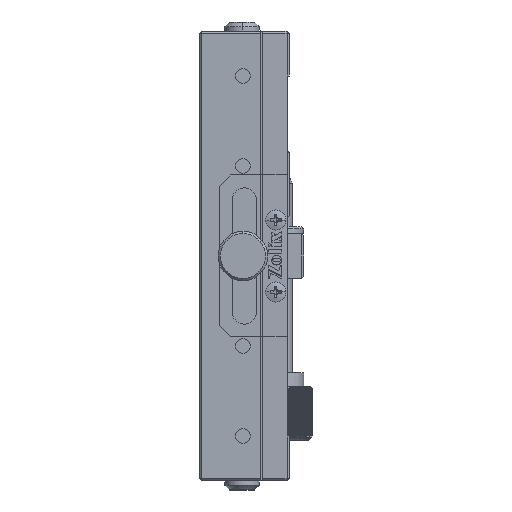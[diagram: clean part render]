
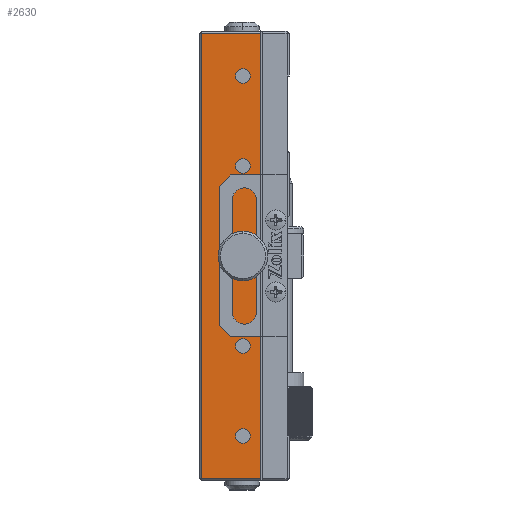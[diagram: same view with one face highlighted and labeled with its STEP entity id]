
A CAD part, left-side view. The second image highlights one B-rep face of the part: STEP entity #2630.
In plain terms, the highlighted planar face has unit normal (-1, 0, 0).
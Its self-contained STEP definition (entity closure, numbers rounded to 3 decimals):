
#374 = FACE_BOUND ( 'NONE', #23019, .T. ) ;
#692 = CARTESIAN_POINT ( 'NONE',  ( -52.563, -2.575, 132.5 ) ) ;
#922 = EDGE_LOOP ( 'NONE', ( #19258, #6708 ) ) ;
#1441 = VERTEX_POINT ( 'NONE', #41473 ) ;
#1697 = CARTESIAN_POINT ( 'NONE',  ( -52.563, -2.575, 92.5 ) ) ;
#1848 = ORIENTED_EDGE ( 'NONE', *, *, #37726, .F. ) ;
#2277 = DIRECTION ( 'NONE',  ( 0., 1., 0. ) ) ;
#2630 = ADVANCED_FACE ( 'NONE', ( #28847, #374, #29920, #15440, #40139, #11709 ), #17550, .T. ) ;
#2879 = EDGE_CURVE ( 'NONE', #11442, #38627, #13823, .T. ) ;
#3650 = EDGE_CURVE ( 'NONE', #9104, #14641, #29280, .T. ) ;
#3733 = LINE ( 'NONE', #16778, #30535 ) ;
#4685 = DIRECTION ( 'NONE',  ( 0., 0., 1. ) ) ;
#4721 = CARTESIAN_POINT ( 'NONE',  ( -52.563, -2.575, 90.85 ) ) ;
#4745 = CARTESIAN_POINT ( 'NONE',  ( -52.563, -6.575, 63. ) ) ;
#4981 = DIRECTION ( 'NONE',  ( -1., 0., 0. ) ) ;
#5251 = EDGE_CURVE ( 'NONE', #19416, #7612, #38796, .T. ) ;
#5461 = CARTESIAN_POINT ( 'NONE',  ( -52.563, -6.575, 162. ) ) ;
#5810 = CIRCLE ( 'NONE', #8080, 1.65 ) ;
#6166 = DIRECTION ( 'NONE',  ( 0., 0., 1. ) ) ;
#6420 = CARTESIAN_POINT ( 'NONE',  ( -52.563, -2.575, 70.85 ) ) ;
#6438 = AXIS2_PLACEMENT_3D ( 'NONE', #44531, #6765, #17104 ) ;
#6464 = DIRECTION ( 'NONE',  ( 0., 0., 1. ) ) ;
#6638 = EDGE_LOOP ( 'NONE', ( #26894, #42320, #8044, #34315 ) ) ;
#6708 = ORIENTED_EDGE ( 'NONE', *, *, #5251, .F. ) ;
#6765 = DIRECTION ( 'NONE',  ( -1., 0., 0. ) ) ;
#7329 = CIRCLE ( 'NONE', #19308, 1.65 ) ;
#7612 = VERTEX_POINT ( 'NONE', #21663 ) ;
#8044 = ORIENTED_EDGE ( 'NONE', *, *, #20884, .T. ) ;
#8053 = DIRECTION ( 'NONE',  ( -1., 0., 0. ) ) ;
#8059 = EDGE_CURVE ( 'NONE', #36309, #40314, #25794, .T. ) ;
#8080 = AXIS2_PLACEMENT_3D ( 'NONE', #42612, #18751, #8120 ) ;
#8120 = DIRECTION ( 'NONE',  ( 0., 0., 1. ) ) ;
#9104 = VERTEX_POINT ( 'NONE', #41130 ) ;
#10306 = EDGE_LOOP ( 'NONE', ( #16619, #28445 ) ) ;
#10479 = CARTESIAN_POINT ( 'NONE',  ( -52.563, 6.625, 62.5 ) ) ;
#11098 = DIRECTION ( 'NONE',  ( -1., 0., 0. ) ) ;
#11342 = CIRCLE ( 'NONE', #29993, 1.65 ) ;
#11442 = VERTEX_POINT ( 'NONE', #31092 ) ;
#11542 = LINE ( 'NONE', #10479, #24377 ) ;
#11709 = FACE_BOUND ( 'NONE', #922, .T. ) ;
#11789 = CARTESIAN_POINT ( 'NONE',  ( -52.563, -2.575, 92.5 ) ) ;
#11988 = CIRCLE ( 'NONE', #29797, 1.65 ) ;
#12180 = CARTESIAN_POINT ( 'NONE',  ( -52.563, -2.575, 72.5 ) ) ;
#12570 = CARTESIAN_POINT ( 'NONE',  ( -52.563, -6.575, 162. ) ) ;
#13037 = ORIENTED_EDGE ( 'NONE', *, *, #40571, .F. ) ;
#13356 = CARTESIAN_POINT ( 'NONE',  ( -52.563, -2.575, 112.5 ) ) ;
#13379 = ORIENTED_EDGE ( 'NONE', *, *, #41649, .F. ) ;
#13823 = LINE ( 'NONE', #4745, #26664 ) ;
#14252 = EDGE_CURVE ( 'NONE', #20427, #1441, #15851, .T. ) ;
#14641 = VERTEX_POINT ( 'NONE', #43016 ) ;
#15440 = FACE_BOUND ( 'NONE', #36531, .T. ) ;
#15851 = CIRCLE ( 'NONE', #20052, 2.1 ) ;
#16619 = ORIENTED_EDGE ( 'NONE', *, *, #34306, .F. ) ;
#16778 = CARTESIAN_POINT ( 'NONE',  ( -52.563, -6.575, 62.5 ) ) ;
#17104 = DIRECTION ( 'NONE',  ( 0., 0., 1. ) ) ;
#17225 = ORIENTED_EDGE ( 'NONE', *, *, #34695, .F. ) ;
#17269 = CARTESIAN_POINT ( 'NONE',  ( -52.563, -2.575, 94.15 ) ) ;
#17550 = PLANE ( 'NONE',  #6438 ) ;
#17674 = AXIS2_PLACEMENT_3D ( 'NONE', #41799, #28405, #35438 ) ;
#17868 = ORIENTED_EDGE ( 'NONE', *, *, #14252, .F. ) ;
#18751 = DIRECTION ( 'NONE',  ( -1., 0., 0. ) ) ;
#19258 = ORIENTED_EDGE ( 'NONE', *, *, #25020, .F. ) ;
#19308 = AXIS2_PLACEMENT_3D ( 'NONE', #11789, #32607, #25843 ) ;
#19416 = VERTEX_POINT ( 'NONE', #39349 ) ;
#19679 = DIRECTION ( 'NONE',  ( -1., 0., 0. ) ) ;
#20052 = AXIS2_PLACEMENT_3D ( 'NONE', #29690, #19679, #43665 ) ;
#20236 = DIRECTION ( 'NONE',  ( 0., 0., 1. ) ) ;
#20256 = DIRECTION ( 'NONE',  ( -1., 0., 0. ) ) ;
#20427 = VERTEX_POINT ( 'NONE', #22807 ) ;
#20560 = DIRECTION ( 'NONE',  ( -1., 0., 0. ) ) ;
#20799 = VERTEX_POINT ( 'NONE', #6420 ) ;
#20884 = EDGE_CURVE ( 'NONE', #40314, #11442, #11542, .T. ) ;
#21238 = CIRCLE ( 'NONE', #42513, 1.65 ) ;
#21440 = ORIENTED_EDGE ( 'NONE', *, *, #40835, .F. ) ;
#21521 = VECTOR ( 'NONE', #2277, 1000. ) ;
#21663 = CARTESIAN_POINT ( 'NONE',  ( -52.563, -2.575, 134.15 ) ) ;
#22334 = EDGE_CURVE ( 'NONE', #38627, #36309, #3733, .T. ) ;
#22661 = DIRECTION ( 'NONE',  ( -1., 0., 0. ) ) ;
#22807 = CARTESIAN_POINT ( 'NONE',  ( -52.563, -2.575, 114.6 ) ) ;
#23019 = EDGE_LOOP ( 'NONE', ( #17868, #21440 ) ) ;
#24176 = CIRCLE ( 'NONE', #39799, 1.65 ) ;
#24377 = VECTOR ( 'NONE', #24387, 1000. ) ;
#24387 = DIRECTION ( 'NONE',  ( 0., 0., -1. ) ) ;
#24531 = VERTEX_POINT ( 'NONE', #38867 ) ;
#25020 = EDGE_CURVE ( 'NONE', #7612, #19416, #21238, .T. ) ;
#25704 = DIRECTION ( 'NONE',  ( 0., 0., 1. ) ) ;
#25794 = LINE ( 'NONE', #5461, #21521 ) ;
#25843 = DIRECTION ( 'NONE',  ( 0., 0., 1. ) ) ;
#26265 = CARTESIAN_POINT ( 'NONE',  ( -52.563, -2.575, 152.5 ) ) ;
#26664 = VECTOR ( 'NONE', #32158, 1000. ) ;
#26894 = ORIENTED_EDGE ( 'NONE', *, *, #22334, .T. ) ;
#27458 = CARTESIAN_POINT ( 'NONE',  ( -52.563, -6.575, 63. ) ) ;
#28284 = CIRCLE ( 'NONE', #37951, 2.1 ) ;
#28405 = DIRECTION ( 'NONE',  ( -1., 0., 0. ) ) ;
#28445 = ORIENTED_EDGE ( 'NONE', *, *, #3650, .F. ) ;
#28847 = FACE_OUTER_BOUND ( 'NONE', #6638, .T. ) ;
#29280 = CIRCLE ( 'NONE', #17674, 1.65 ) ;
#29415 = VERTEX_POINT ( 'NONE', #17269 ) ;
#29690 = CARTESIAN_POINT ( 'NONE',  ( -52.563, -2.575, 112.5 ) ) ;
#29797 = AXIS2_PLACEMENT_3D ( 'NONE', #1697, #8053, #25704 ) ;
#29861 = DIRECTION ( 'NONE',  ( 0., 0., 1. ) ) ;
#29920 = FACE_BOUND ( 'NONE', #32525, .T. ) ;
#29993 = AXIS2_PLACEMENT_3D ( 'NONE', #26265, #22661, #29861 ) ;
#30535 = VECTOR ( 'NONE', #20236, 1000. ) ;
#30885 = CARTESIAN_POINT ( 'NONE',  ( -52.563, -2.575, 132.5 ) ) ;
#31092 = CARTESIAN_POINT ( 'NONE',  ( -52.563, 6.625, 63. ) ) ;
#31599 = DIRECTION ( 'NONE',  ( 0., 0., 1. ) ) ;
#32158 = DIRECTION ( 'NONE',  ( 0., -1., 0. ) ) ;
#32525 = EDGE_LOOP ( 'NONE', ( #1848, #13379 ) ) ;
#32607 = DIRECTION ( 'NONE',  ( -1., 0., 0. ) ) ;
#34306 = EDGE_CURVE ( 'NONE', #14641, #9104, #11342, .T. ) ;
#34315 = ORIENTED_EDGE ( 'NONE', *, *, #2879, .T. ) ;
#34695 = EDGE_CURVE ( 'NONE', #20799, #24531, #24176, .T. ) ;
#35438 = DIRECTION ( 'NONE',  ( 0., 0., 1. ) ) ;
#36309 = VERTEX_POINT ( 'NONE', #12570 ) ;
#36531 = EDGE_LOOP ( 'NONE', ( #13037, #17225 ) ) ;
#37726 = EDGE_CURVE ( 'NONE', #29415, #38254, #11988, .T. ) ;
#37815 = AXIS2_PLACEMENT_3D ( 'NONE', #30885, #20560, #6464 ) ;
#37951 = AXIS2_PLACEMENT_3D ( 'NONE', #13356, #20256, #6166 ) ;
#38102 = CARTESIAN_POINT ( 'NONE',  ( -52.563, 6.625, 162. ) ) ;
#38254 = VERTEX_POINT ( 'NONE', #4721 ) ;
#38627 = VERTEX_POINT ( 'NONE', #27458 ) ;
#38796 = CIRCLE ( 'NONE', #37815, 1.65 ) ;
#38867 = CARTESIAN_POINT ( 'NONE',  ( -52.563, -2.575, 74.15 ) ) ;
#39349 = CARTESIAN_POINT ( 'NONE',  ( -52.563, -2.575, 130.85 ) ) ;
#39799 = AXIS2_PLACEMENT_3D ( 'NONE', #12180, #4981, #4685 ) ;
#40139 = FACE_BOUND ( 'NONE', #10306, .T. ) ;
#40314 = VERTEX_POINT ( 'NONE', #38102 ) ;
#40571 = EDGE_CURVE ( 'NONE', #24531, #20799, #5810, .T. ) ;
#40835 = EDGE_CURVE ( 'NONE', #1441, #20427, #28284, .T. ) ;
#41130 = CARTESIAN_POINT ( 'NONE',  ( -52.563, -2.575, 150.85 ) ) ;
#41473 = CARTESIAN_POINT ( 'NONE',  ( -52.563, -2.575, 110.4 ) ) ;
#41649 = EDGE_CURVE ( 'NONE', #38254, #29415, #7329, .T. ) ;
#41799 = CARTESIAN_POINT ( 'NONE',  ( -52.563, -2.575, 152.5 ) ) ;
#42320 = ORIENTED_EDGE ( 'NONE', *, *, #8059, .T. ) ;
#42513 = AXIS2_PLACEMENT_3D ( 'NONE', #692, #11098, #31599 ) ;
#42612 = CARTESIAN_POINT ( 'NONE',  ( -52.563, -2.575, 72.5 ) ) ;
#43016 = CARTESIAN_POINT ( 'NONE',  ( -52.563, -2.575, 154.15 ) ) ;
#43665 = DIRECTION ( 'NONE',  ( 0., 0., 1. ) ) ;
#44531 = CARTESIAN_POINT ( 'NONE',  ( -52.563, -6.575, 62.5 ) ) ;
